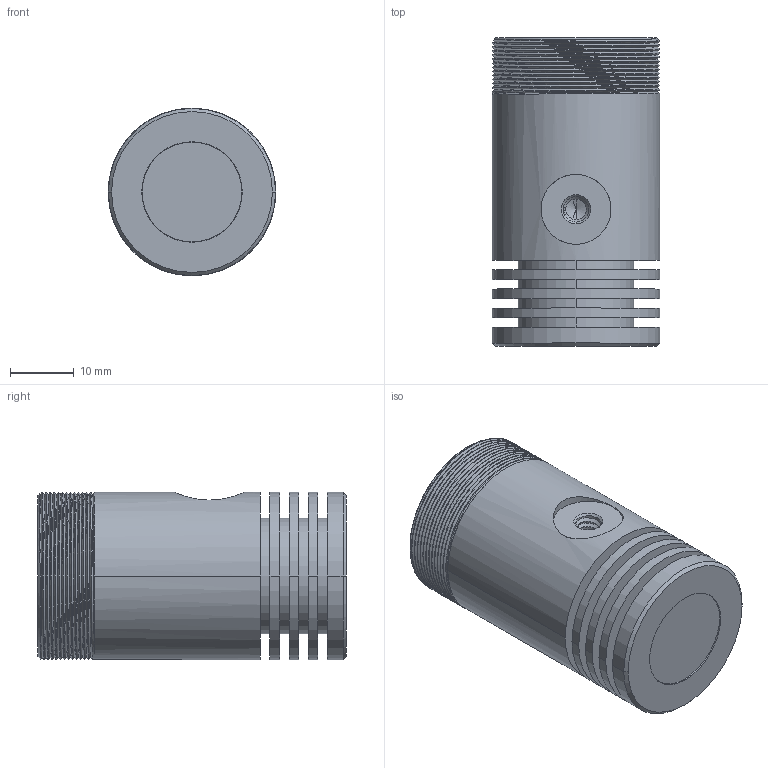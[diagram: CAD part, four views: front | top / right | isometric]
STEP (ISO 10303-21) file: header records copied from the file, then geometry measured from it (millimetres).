
FILE_DESCRIPTION((''),'2;1');
FILE_NAME('800-432-2323_ASM','2021-10-25T',('si'),(''),'CREO PARAMETRIC BY PTC INC, 2017300','CREO PARAMETRIC BY PTC INC, 2017300','');
FILE_SCHEMA(('CONFIG_CONTROL_DESIGN'));
Length unit declared in the file: millimetre
Products named in the file (3): 800-432-2323_01; 800-432-2323_02; 800-432-2323_ASM
Assembly tree (2 placements, depth 2):
  800-432-2323_ASM
    800-432-2323_01
    800-432-2323_02
Bounding box: 26.28 x 48.5 x 26.28 mm (x, y, z)
Volume: 19259.8 mm3; surface area: 10464.3 mm2
Topology: 2 solids, 2 shells, 103 faces, 248 edges, 159 vertices
Faces by surface type: cylinder 58, bspline 18, plane 15, cone 12
Entity records: 7057 total; most frequent: CARTESIAN_POINT 4741, ORIENTED_EDGE 492, DIRECTION 409, EDGE_CURVE 246, AXIS2_PLACEMENT_3D 163, VERTEX_POINT 159, EDGE_LOOP 117, FACE_OUTER_BOUND 103
